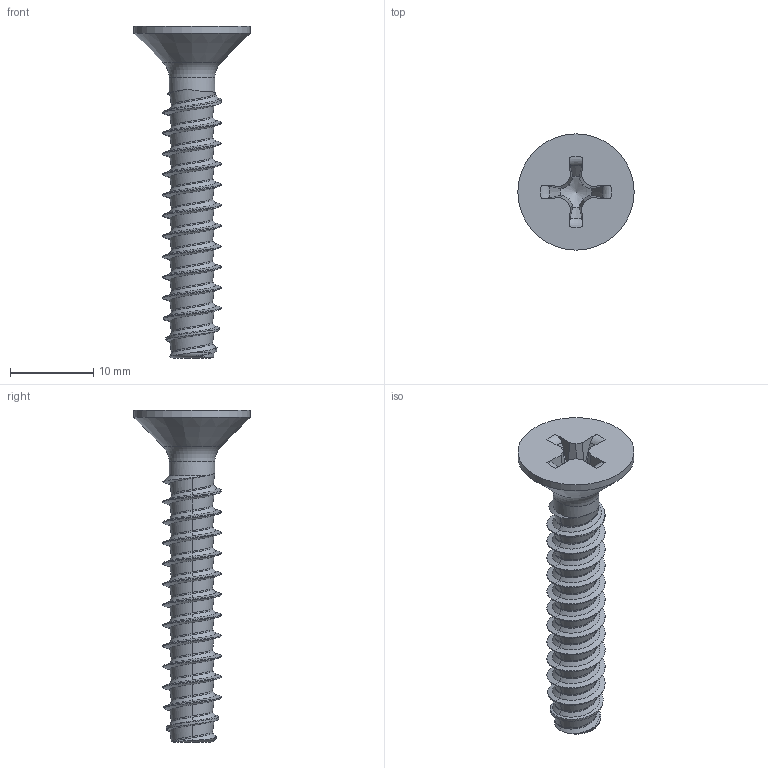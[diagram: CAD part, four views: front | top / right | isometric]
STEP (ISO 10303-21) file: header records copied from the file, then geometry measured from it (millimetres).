
FILE_DESCRIPTION(/* description */ (''),/* implementation_level */ '2;1');
FILE_NAME(/* name */ 'KN6041-STSplus-70x40-H3.step',/* time_stamp */ '2017-10-12T12:53:19+02:00',/* author */ (''),/* organization */ (''),/* preprocessor_version */ 'ST-DEVELOPER v16',/* originating_system */ 'SIEMENS PLM Software NX 10.0',/* authorisation */ '');
FILE_SCHEMA (('AUTOMOTIVE_DESIGN { 1 0 10303 214 3 1 1 1 }'));
Length unit declared in the file: millimetre
Products named in the file (1): KN6041-STSplus-70x40-H3
Bounding box: 14 x 14 x 40 mm (x, y, z)
Volume: 1251 mm3; surface area: 1340.8 mm2
Topology: 1 solids, 1 shells, 104 faces, 253 edges, 151 vertices
Faces by surface type: bspline 69, plane 18, cone 8, torus 6, cylinder 3
Full cylindrical faces by diameter (mm): 5.48 x1, 14 x1
Entity records: 7231 total; most frequent: CARTESIAN_POINT 5303, ORIENTED_EDGE 484, EDGE_CURVE 242, DIRECTION 206, VERTEX_POINT 147, B_SPLINE_CURVE_WITH_KNOTS 129, EDGE_LOOP 110, ADVANCED_FACE 104
